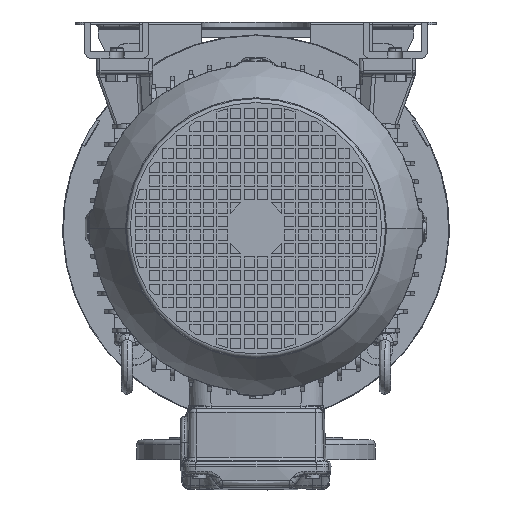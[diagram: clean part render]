
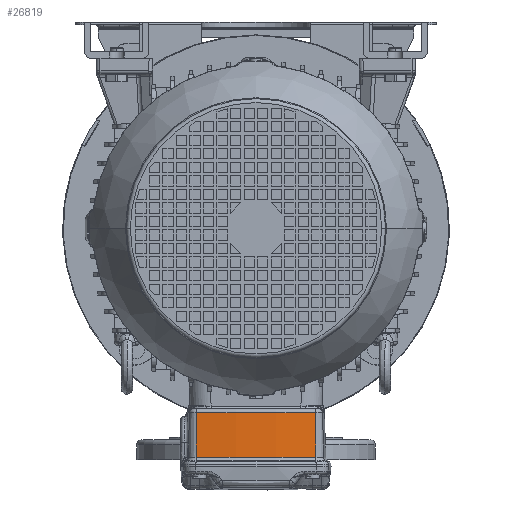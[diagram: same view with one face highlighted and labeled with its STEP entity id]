
A CAD part, front view. The second image highlights one B-rep face of the part: STEP entity #26819.
In plain terms, the highlighted conical face has half-angle 1 degrees and reference radius 447 mm.
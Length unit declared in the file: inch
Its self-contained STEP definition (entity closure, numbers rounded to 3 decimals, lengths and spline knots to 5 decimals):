
#2273 = DIRECTION ( 'NONE',  ( 0., 1., 0. ) ) ;
#4421 = ORIENTED_EDGE ( 'NONE', *, *, #14381, .F. ) ;
#8917 = DIRECTION ( 'NONE',  ( -1., 0.002, -0.017 ) ) ;
#9740 = DIRECTION ( 'NONE',  ( 0., -1., 0. ) ) ;
#10792 = CARTESIAN_POINT ( 'NONE',  ( -5.62786, -1.81609, 0.0049 ) ) ;
#14381 = EDGE_CURVE ( 'NONE', #39118, #80232, #18940, .T. ) ;
#15664 = CONICAL_SURFACE ( 'NONE', #95314, 17.59843, 0.017 ) ;
#18940 = LINE ( 'NONE', #115846, #55732 ) ;
#19082 = CIRCLE ( 'NONE', #130557, 17.56953 ) ;
#23665 = CARTESIAN_POINT ( 'NONE',  ( -6.98944, 0., 17.48031 ) ) ;
#25375 = CARTESIAN_POINT ( 'NONE',  ( -6.98944, -1.81854, -0.01874 ) ) ;
#26819 = ADVANCED_FACE ( 'NONE', ( #89607 ), #15664, .T. ) ;
#28391 = CARTESIAN_POINT ( 'NONE',  ( -5.62786, 1.81609, 0.0049 ) ) ;
#32294 = EDGE_CURVE ( 'NONE', #49059, #33910, #63981, .T. ) ;
#33910 = VERTEX_POINT ( 'NONE', #25375 ) ;
#35483 = DIRECTION ( 'NONE',  ( -1., 0., 0. ) ) ;
#39118 = VERTEX_POINT ( 'NONE', #28391 ) ;
#49059 = VERTEX_POINT ( 'NONE', #10792 ) ;
#55732 = VECTOR ( 'NONE', #8917, 39.37008 ) ;
#61978 = ORIENTED_EDGE ( 'NONE', *, *, #105529, .T. ) ;
#63981 = LINE ( 'NONE', #86752, #100216 ) ;
#66422 = DIRECTION ( 'NONE',  ( 1., 0., 0. ) ) ;
#68550 = CARTESIAN_POINT ( 'NONE',  ( -6.98944, 1.81854, -0.01874 ) ) ;
#77718 = ORIENTED_EDGE ( 'NONE', *, *, #89487, .T. ) ;
#80232 = VERTEX_POINT ( 'NONE', #68550 ) ;
#80839 = AXIS2_PLACEMENT_3D ( 'NONE', #23665, #66422, #2273 ) ;
#84416 = ORIENTED_EDGE ( 'NONE', *, *, #32294, .T. ) ;
#86752 = CARTESIAN_POINT ( 'NONE',  ( -7.28346, -1.81907, -0.02384 ) ) ;
#87646 = CIRCLE ( 'NONE', #80839, 17.59329 ) ;
#89487 = EDGE_CURVE ( 'NONE', #33910, #80232, #87646, .T. ) ;
#89607 = FACE_OUTER_BOUND ( 'NONE', #132947, .T. ) ;
#95314 = AXIS2_PLACEMENT_3D ( 'NONE', #133088, #35483, #122390 ) ;
#100216 = VECTOR ( 'NONE', #130233, 39.37008 ) ;
#105529 = EDGE_CURVE ( 'NONE', #39118, #49059, #19082, .T. ) ;
#115846 = CARTESIAN_POINT ( 'NONE',  ( -7.28346, 1.81907, -0.02384 ) ) ;
#115976 = DIRECTION ( 'NONE',  ( -1., 0., 0. ) ) ;
#122390 = DIRECTION ( 'NONE',  ( 0., 1., 0. ) ) ;
#129478 = CARTESIAN_POINT ( 'NONE',  ( -5.62786, 0., 17.48031 ) ) ;
#130233 = DIRECTION ( 'NONE',  ( -1., -0.002, -0.017 ) ) ;
#130557 = AXIS2_PLACEMENT_3D ( 'NONE', #129478, #115976, #9740 ) ;
#132947 = EDGE_LOOP ( 'NONE', ( #84416, #77718, #4421, #61978 ) ) ;
#133088 = CARTESIAN_POINT ( 'NONE',  ( -7.28346, 0., 17.48031 ) ) ;
